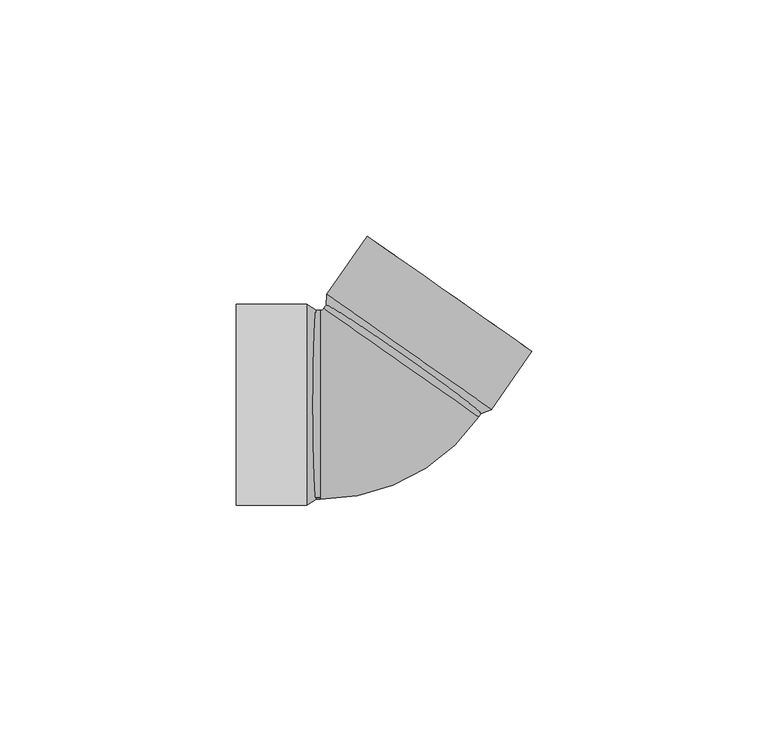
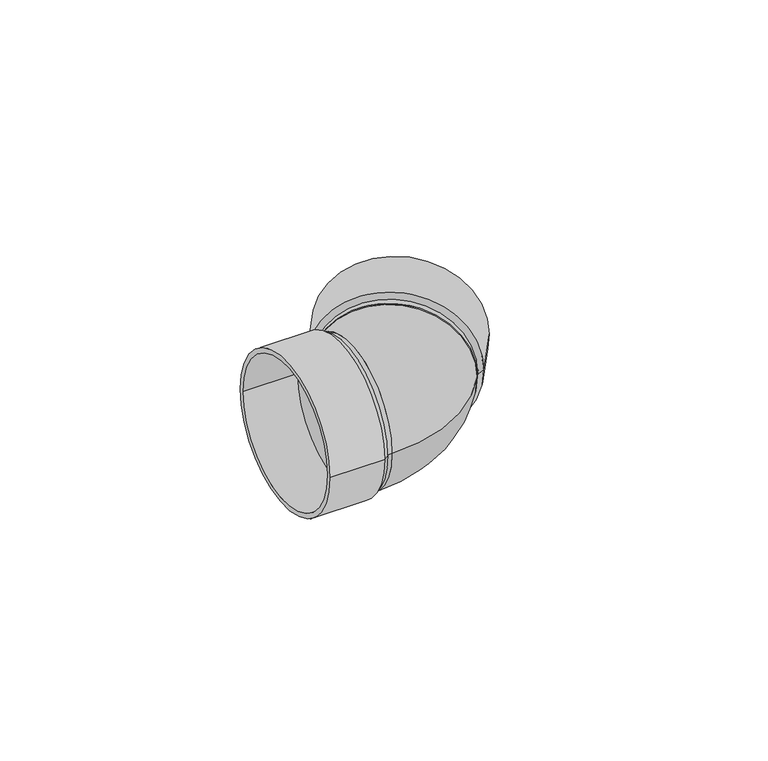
"""IFC4 building model written with IfcOpenShell, lengths in millimetres: pipe fitting geometry, Joelho 45_90 - Serie Normal - Esgoto : Joelho 45_90 - Serie Normal - Esgoto."""

from ifc_helpers import new_model, si_unit, point, frame, origin, origin_2d, place, context, project, spatial, polyline, circle_curve, ellipse_curve, trimmed, segment, composite_curve, outline, extrude, source, transform, mapped, element, save
from ifc_brep_helpers import plane_surface, cylinder_surface, revolved_surface, advanced_brep


def pipe_fitting_60dbfa68(model_context):
    return source(origin(), model_context, "Body", "SolidModel", [
        extrude(outline(composite_curve([segment(trimmed(circle_curve(origin_2d(), 20.0), [point((0.0, 19.9999999))], [point((0.0, -20.0))], False, "CARTESIAN"), True, "CONTINUOUS"), segment(trimmed(circle_curve(origin_2d(), 20.0), [point((0.0, -20.0))], [point((0.0, 19.9999999))], False, "CARTESIAN"), True, "CONTINUOUS")], self_intersect=False)), frame((6.270555, 8.9513143, 0.0), z_axis=(0.5737469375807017, 0.8190326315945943, 0.0), x_axis=(0.0, 0.0, 1.0)), (0.0, 0.0, 1.0), 2.8),
        extrude(outline(composite_curve([segment(trimmed(circle_curve(origin_2d(), 20.0), [point((-20.0, 0.0))], [point((20.0, 0.0))], False, "CARTESIAN"), True, "CONTINUOUS"), segment(trimmed(circle_curve(origin_2d(), 20.0), [point((20.0, 0.0))], [point((-20.0, 0.0))], False, "CARTESIAN"), True, "CONTINUOUS")], self_intersect=False)), frame((-13.7291303, 0.0, 0.0), z_axis=(1.0, 0.0, 0.0), x_axis=(0.0, 1.0, 0.0)), (0.0, 0.0, 1.0), 2.8),
        advanced_brep(
        [(-28.7291303, 21.3, 0.0), (-28.7291303, -21.3, 0.0), (-28.7291303, 20.0, 0.0), (-28.7291303, -20.0, 0.0), (-13.7291303, -20.0, 0.0), (-13.7291303, 20.0, 0.0), (-13.7291303, -21.3, 0.0), (-13.7291303, 21.3, 0.0), (-11.7291303, -20.0, 0.0), (-11.7291303, 20.0, 0.0), (-10.9291303, 20.0, 0.0), (-10.9291303, -20.0, 0.0), (-10.9291303, 0.0, 20.0), (-10.9291303, 0.0, -20.0), (22.6512076, -2.5236244, 0.0), (-10.1100976, 20.4262531, 0.0)],
        [
            (0, 1, circle_curve(frame((-28.7291303, 0.0, 0.0), z_axis=(-1.0, 0.0, 0.0), x_axis=(0.0, -1.0, 0.0)), 21.3)),
            (1, 0, circle_curve(frame((-28.7291303, 0.0, 0.0), z_axis=(-1.0, 0.0, 0.0), x_axis=(0.0, -1.0, 0.0)), 21.3)),
            (2, 3, circle_curve(frame((-28.7291303, 0.0, 0.0), z_axis=(1.0, 0.0, 0.0), x_axis=(0.0, -1.0, 0.0)), 20.0)),
            (3, 2, circle_curve(frame((-28.7291303, 0.0, 0.0), z_axis=(1.0, 0.0, 0.0), x_axis=(0.0, -1.0, 0.0)), 20.0)),
            (3, 4),
            (4, 5, circle_curve(frame((-13.7291303, 0.0, 0.0), z_axis=(1.0, 0.0, 0.0), x_axis=(0.0, -1.0, 0.0)), 20.0)),
            (5, 2),
            (5, 4, circle_curve(frame((-13.7291303, 0.0, 0.0), z_axis=(1.0, 0.0, 0.0), x_axis=(0.0, -1.0, 0.0)), 20.0)),
            (1, 6),
            (6, 7, circle_curve(frame((-13.7291303, 0.0, 0.0), z_axis=(-1.0, 0.0, 0.0), x_axis=(0.0, -1.0, 0.0)), 21.3)),
            (7, 0),
            (7, 6, circle_curve(frame((-13.7291303, 0.0, 0.0), z_axis=(-1.0, 0.0, 0.0), x_axis=(0.0, -1.0, 0.0)), 21.3)),
            (8, 6),
            (7, 9),
            (9, 8, circle_curve(frame((-11.7291303, 0.0, 0.0), z_axis=(-1.0, 0.0, 0.0), x_axis=(0.0, 1.0, 0.0)), 20.0)),
            (8, 9, circle_curve(frame((-11.7291303, 0.0, 0.0), z_axis=(-1.0, 0.0, 0.0), x_axis=(0.0, -1.0, 0.0)), 20.0)),
            (10, 9),
            (8, 11),
            (11, 12, circle_curve(frame((-10.9291303, 0.0, 0.0), z_axis=(-1.0, 0.0, 0.0), x_axis=(0.0, -1.0, 0.0)), 20.0)),
            (12, 10, circle_curve(frame((-10.9291303, 0.0, 0.0), z_axis=(-1.0, 0.0, 0.0), x_axis=(0.0, -1.0, 0.0)), 20.0)),
            (10, 13, circle_curve(frame((-10.9291303, 0.0, 0.0), z_axis=(-1.0, 0.0, 0.0), x_axis=(0.0, -1.0, 0.0)), 20.0)),
            (13, 11, circle_curve(frame((-10.9291303, 0.0, 0.0), z_axis=(-1.0, 0.0, 0.0), x_axis=(0.0, -1.0, 0.0)), 20.0)),
            (14, 15, circle_curve(frame((6.270555, 8.9513143, 0.0), z_axis=(0.5737469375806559, 0.8190326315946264, 0.0), x_axis=(-0.8190326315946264, 0.5737469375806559, 0.0)), 20.0)),
            (15, 14, circle_curve(frame((6.270555, 8.9513143, 0.0), z_axis=(0.5737469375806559, 0.8190326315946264, 0.0), x_axis=(-0.8190326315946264, 0.5737469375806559, 0.0)), 20.0)),
            (15, 10, circle_curve(frame((-10.9291303, 21.0, 0.0), z_axis=(0.0, 0.0, -1.0), x_axis=(0.0, -1.0, 0.0)), 1.0)),
            (11, 14, circle_curve(frame((-10.9291303, 21.0, 0.0), z_axis=(0.0, 0.0, 1.0), x_axis=(0.0, -1.0, 0.0)), 41.0)),
        ],
        [
            plane_surface(frame((-28.7291303, 0.0, 0.0), z_axis=(-1.0, 0.0, 0.0), x_axis=(0.0, 0.0, 1.0))),
            revolved_surface(polyline([(-28.7291303, -20.0, 0.0), (-13.7291303, -20.0, 0.0)]), (-13.7291303, 0.0, 0.0), (-1.0, 0.0, 0.0)),
            cylinder_surface(frame((-13.7291303, 0.0, 0.0), z_axis=(1.0, 0.0, 0.0), x_axis=(0.0, -1.0, 0.0)), 21.3),
            plane_surface(frame((-13.7291303, 0.0, 0.0), z_axis=(-1.0, 0.0, 0.0), x_axis=(0.0, 0.0, -1.0))),
            revolved_surface(polyline([(-11.729130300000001, -20.00000000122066, 0.0), (-13.729130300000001, -21.3, 0.0)]), (19.0401005, 0.0, 0.0), (-1.0, 0.0, 0.0)),
            cylinder_surface(frame((-10.9291303, 0.0, 0.0), z_axis=(1.0, 0.0, 0.0), x_axis=(0.0, -1.0, 0.0)), 20.0),
            plane_surface(frame((6.270555, 8.9513143, 0.0), z_axis=(0.573746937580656, 0.8190326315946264, 0.0), x_axis=(0.0, 0.0, 1.0))),
            revolved_surface(trimmed(ellipse_curve(frame((-10.9291303, 0.0, 0.0), z_axis=(-1.0, 0.0, 0.0), x_axis=(0.0, 1.0, 0.0)), 20.0, 20.0), [point((-10.9291303, -20.0, 0.0))], [point((-10.9291303, 20.0, 0.0))], True, "CARTESIAN"), (-10.9291303, 21.0, 0.0), (0.0, 0.0, 1.0)),
            revolved_surface(trimmed(ellipse_curve(frame((-10.9291303, 0.0, 0.0), z_axis=(-1.0, 0.0, 0.0), x_axis=(0.0, 1.0, 0.0)), 20.0, 20.0), [point((-10.9291303, 20.0, 0.0))], [point((-10.9291303, -20.0, 0.0))], True, "CARTESIAN"), (-10.9291303, 21.0, 0.0), (0.0, 0.0, 1.0)),
        ],
        [
            (0, [[1, 2], [3, 4]]),
            (1, [[-4, 5, 6, 7]]),
            (1, [[-3, -7, 8, -5]]),
            (2, [[-2, 9, 10, 11]]),
            (2, [[-1, -11, 12, -9]]),
            (3, [[-6, -8]]),
            (4, [[13, -12, 14, 15]]),
            (4, [[-13, 16, -14, -10]]),
            (5, [[17, -16, 18, 19, 20]]),
            (5, [[-17, 21, 22, -18, -15]]),
            (6, [[23, 24]]),
            (7, [[-24, 25, -20, -19, 26]]),
            (8, [[-23, -26, -22, -21, -25]]),
        ],
    ),
        advanced_brep(
        [(24.2576991, -0.2303331, 0.0), (-8.5036062, 22.7195444, 0.0), (-9.6511001, 21.0814792, 0.0), (-9.5683486, 23.4654154, 0.0), (25.3224415, -0.9762041, 0.0), (23.1102052, -1.8683983, 0.0), (33.9286456, 11.3092854, 0.0), (-0.9621446, 35.7509049, 0.0), (32.8639031, 12.0551564, 0.0), (0.1025979, 35.0050339, 0.0), (22.6512076, -2.5236244, 0.0), (-10.1100976, 20.4262531, 0.0), (6.270555, 8.9513143, 20.0), (6.270555, 8.9513143, -20.0), (-10.9291303, -20.0, 0.0), (-10.9291303, 20.0, 0.0)],
        [
            (0, 1, circle_curve(frame((7.8770464, 11.2446057, 0.0), z_axis=(0.5737469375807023, 0.819032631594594, 0.0), x_axis=(-0.819032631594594, 0.5737469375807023, 0.0)), 20.0)),
            (1, 0, circle_curve(frame((7.8770464, 11.2446057, 0.0), z_axis=(0.5737469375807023, 0.819032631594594, 0.0), x_axis=(-0.819032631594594, 0.5737469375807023, 0.0)), 20.0)),
            (2, 3),
            (3, 4, circle_curve(frame((7.8770464, 11.2446057, 0.0), z_axis=(-0.573746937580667, -0.8190326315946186, 0.0), x_axis=(0.8190326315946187, -0.5737469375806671, 0.0)), 21.3)),
            (4, 5),
            (5, 2, circle_curve(frame((6.7295526, 9.6065404, 0.0), z_axis=(0.573746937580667, 0.8190326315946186, 0.0), x_axis=(0.8190326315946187, -0.5737469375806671, 0.0)), 20.0)),
            (2, 5, circle_curve(frame((6.7295526, 9.6065404, 0.0), z_axis=(0.573746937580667, 0.8190326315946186, 0.0), x_axis=(-0.8190326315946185, 0.5737469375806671, 0.0)), 20.0)),
            (4, 3, circle_curve(frame((7.8770464, 11.2446057, 0.0), z_axis=(-0.573746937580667, -0.8190326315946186, 0.0), x_axis=(-0.8190326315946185, 0.5737469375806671, 0.0)), 21.3)),
            (6, 7, circle_curve(frame((16.4832505, 23.5300952, 0.0), z_axis=(0.5737469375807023, 0.819032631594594, 0.0), x_axis=(-0.819032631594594, 0.5737469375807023, 0.0)), 21.3)),
            (7, 6, circle_curve(frame((16.4832505, 23.5300952, 0.0), z_axis=(0.5737469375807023, 0.819032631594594, 0.0), x_axis=(-0.819032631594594, 0.5737469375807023, 0.0)), 21.3)),
            (8, 9, circle_curve(frame((16.4832505, 23.5300952, 0.0), z_axis=(-0.5737469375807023, -0.819032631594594, 0.0), x_axis=(-0.819032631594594, 0.5737469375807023, 0.0)), 20.0)),
            (9, 8, circle_curve(frame((16.4832505, 23.5300952, 0.0), z_axis=(-0.5737469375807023, -0.819032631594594, 0.0), x_axis=(-0.819032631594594, 0.5737469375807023, 0.0)), 20.0)),
            (7, 3),
            (4, 6),
            (9, 1),
            (0, 8),
            (10, 5),
            (2, 11),
            (11, 12, circle_curve(frame((6.270555, 8.9513143, 0.0), z_axis=(0.5737469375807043, 0.8190326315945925, 0.0), x_axis=(-0.8190326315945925, 0.5737469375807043, 0.0)), 20.0)),
            (12, 10, circle_curve(frame((6.270555, 8.9513143, 0.0), z_axis=(0.5737469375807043, 0.8190326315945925, 0.0), x_axis=(-0.8190326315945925, 0.5737469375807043, 0.0)), 20.0)),
            (10, 13, circle_curve(frame((6.270555, 8.9513143, 0.0), z_axis=(0.5737469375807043, 0.8190326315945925, 0.0), x_axis=(-0.8190326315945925, 0.5737469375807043, 0.0)), 20.0)),
            (13, 11, circle_curve(frame((6.270555, 8.9513143, 0.0), z_axis=(0.5737469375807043, 0.8190326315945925, 0.0), x_axis=(-0.8190326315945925, 0.5737469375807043, 0.0)), 20.0)),
            (14, 15, circle_curve(frame((-10.9291303, 0.0, 0.0), z_axis=(-1.0, 0.0, 0.0), x_axis=(0.0, 1.0, 0.0)), 20.0)),
            (15, 14, circle_curve(frame((-10.9291303, 0.0, 0.0), z_axis=(-1.0, 0.0, 0.0), x_axis=(0.0, 1.0, 0.0)), 20.0)),
            (14, 10, circle_curve(frame((-10.9291303, 21.0, 0.0), z_axis=(0.0, 0.0, 1.0), x_axis=(0.0, -1.0, 0.0)), 41.0)),
            (11, 15, circle_curve(frame((-10.9291303, 21.0, 0.0), z_axis=(0.0, 0.0, -1.0), x_axis=(0.0, -1.0, 0.0)), 1.0)),
        ],
        [
            plane_surface(frame((7.8770464, 11.2446057, 0.0), z_axis=(0.5737469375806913, 0.8190326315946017, 0.0), x_axis=(0.0, 0.0, -1.0))),
            revolved_surface(polyline([(-9.651100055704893, 21.081479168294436, 0.0), (-9.568348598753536, 23.465415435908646, 0.0)]), (-10.9241994, -15.5944636, 0.0), (0.573746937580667, 0.8190326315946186, 0.0)),
            plane_surface(frame((16.4832505, 23.5300952, 0.0), z_axis=(0.5737469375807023, 0.819032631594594, 0.0), x_axis=(0.0, 0.0, 1.0))),
            cylinder_surface(frame((7.8770464, 11.2446057, 0.0), z_axis=(-0.5737469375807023, -0.819032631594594, 0.0), x_axis=(-0.819032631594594, 0.5737469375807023, 0.0)), 21.3),
            revolved_surface(polyline([(0.10259785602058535, 35.00503396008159, 0.0), (-8.503606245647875, 22.71954443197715, 0.0)]), (7.8770464, 11.2446057, 0.0), (0.5737469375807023, 0.819032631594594, 0.0)),
            cylinder_surface(frame((6.270555, 8.9513143, 0.0), z_axis=(-0.5737469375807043, -0.8190326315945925, 0.0), x_axis=(-0.8190326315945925, 0.5737469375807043, 0.0)), 20.0),
            plane_surface(frame((-10.9291303, 0.0, 0.0), z_axis=(-1.0, 0.0, 0.0), x_axis=(0.0, 0.0, 1.0))),
            revolved_surface(trimmed(ellipse_curve(frame((-10.9291303, 0.0, 0.0), z_axis=(-1.0, 0.0, 0.0), x_axis=(0.0, 1.0, 0.0)), 20.0, 20.0), [point((-10.9291303, -20.0, 0.0))], [point((-10.9291303, 20.0, 0.0))], True, "CARTESIAN"), (-10.9291303, 21.0, 0.0), (0.0, 0.0, 1.0)),
            revolved_surface(trimmed(ellipse_curve(frame((-10.9291303, 0.0, 0.0), z_axis=(-1.0, 0.0, 0.0), x_axis=(0.0, 1.0, 0.0)), 20.0, 20.0), [point((-10.9291303, 20.0, 0.0))], [point((-10.9291303, -20.0, 0.0))], True, "CARTESIAN"), (-10.9291303, 21.0, 0.0), (0.0, 0.0, 1.0)),
        ],
        [
            (0, [[1, 2]]),
            (1, [[3, 4, 5, 6]]),
            (1, [[-3, 7, -5, 8]]),
            (2, [[9, 10], [11, 12]]),
            (3, [[-10, 13, -8, 14]]),
            (3, [[-9, -14, -4, -13]]),
            (4, [[-12, 15, -1, 16]]),
            (4, [[-11, -16, -2, -15]]),
            (5, [[17, -7, 18, 19, 20]]),
            (5, [[-17, 21, 22, -18, -6]]),
            (6, [[23, 24]]),
            (7, [[-23, 25, -20, -19, 26]]),
            (8, [[-24, -26, -22, -21, -25]]),
        ],
    ),
    ])


if __name__ == "__main__":
    model = new_model("IFC4")
    model_context = context("Model", 3, world=origin())
    ifc_project = project(units=[si_unit("LENGTHUNIT", "METRE", prefix="MILLI")], contexts=[model_context])
    site = spatial("IfcSite", under=ifc_project)
    building = spatial("IfcBuilding", under=site)
    placement = place(None, origin())
    pipe_fitting_shape = pipe_fitting_60dbfa68(model_context)
    element("IfcPipeFitting", 1, ObjectType="Joelho 45_90 - Serie Normal - Esgoto : Joelho 45_90 - Serie Normal - Esgoto", at=placement, inside=building, context=model_context, shape_type="MappedRepresentation", body=[
        mapped(pipe_fitting_shape, transform((0.0, 0.0, 0.0), x_axis=(1.0, 0.0, 0.0), y_axis=(0.0, 1.0, 0.0), z_axis=(0.0, 0.0, 1.0))),
    ])
    save(model, "model.ifc")
